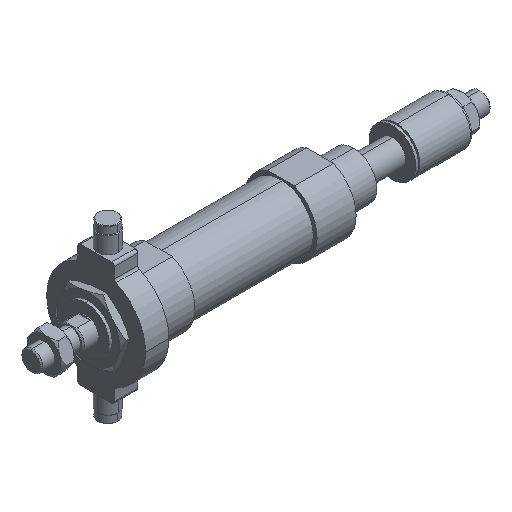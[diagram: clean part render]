
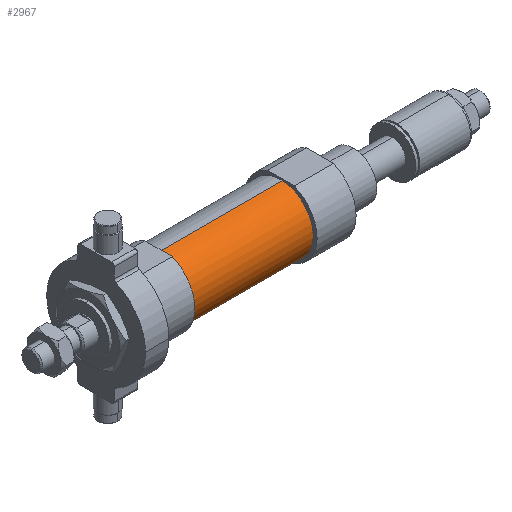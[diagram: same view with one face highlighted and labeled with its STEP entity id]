
A CAD part, isometric view. The second image highlights one B-rep face of the part: STEP entity #2967.
In plain terms, the highlighted cylindrical face has radius 12.5 mm (diameter 25 mm), a partial arc.
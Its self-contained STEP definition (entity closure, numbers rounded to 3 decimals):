
#94 = VECTOR ( 'NONE', #5000, 1000. ) ;
#173 = ORIENTED_EDGE ( 'NONE', *, *, #3686, .F. ) ;
#213 = DIRECTION ( 'NONE',  ( 1., 0., 0. ) ) ;
#394 = DIRECTION ( 'NONE',  ( -1., 0., 0. ) ) ;
#634 = VERTEX_POINT ( 'NONE', #3503 ) ;
#685 = CARTESIAN_POINT ( 'NONE',  ( 23.5, 0., 12.5 ) ) ;
#1111 = ORIENTED_EDGE ( 'NONE', *, *, #1762, .F. ) ;
#1118 = AXIS2_PLACEMENT_3D ( 'NONE', #4851, #1823, #5042 ) ;
#1382 = CARTESIAN_POINT ( 'NONE',  ( 23.5, 0., -12.5 ) ) ;
#1762 = EDGE_CURVE ( 'NONE', #634, #2771, #5639, .T. ) ;
#1823 = DIRECTION ( 'NONE',  ( -1., 0., 0. ) ) ;
#1858 = DIRECTION ( 'NONE',  ( 1., 0., 0. ) ) ;
#1876 = EDGE_LOOP ( 'NONE', ( #173, #1111, #3579, #1887 ) ) ;
#1884 = CARTESIAN_POINT ( 'NONE',  ( -23.5, 0., -12.5 ) ) ;
#1887 = ORIENTED_EDGE ( 'NONE', *, *, #2484, .T. ) ;
#2296 = EDGE_CURVE ( 'NONE', #634, #5242, #4376, .T. ) ;
#2297 = VERTEX_POINT ( 'NONE', #1884 ) ;
#2459 = VECTOR ( 'NONE', #394, 1000. ) ;
#2484 = EDGE_CURVE ( 'NONE', #5242, #2297, #2745, .T. ) ;
#2635 = AXIS2_PLACEMENT_3D ( 'NONE', #4305, #213, #3954 ) ;
#2745 = CIRCLE ( 'NONE', #2635, 12.5 ) ;
#2771 = VERTEX_POINT ( 'NONE', #1382 ) ;
#2793 = CARTESIAN_POINT ( 'NONE',  ( -23.5, 0., 12.5 ) ) ;
#2967 = ADVANCED_FACE ( 'NONE', ( #3229 ), #3337, .T. ) ;
#3229 = FACE_OUTER_BOUND ( 'NONE', #1876, .T. ) ;
#3337 = CYLINDRICAL_SURFACE ( 'NONE', #1118, 12.5 ) ;
#3503 = CARTESIAN_POINT ( 'NONE',  ( 23.5, 0., 12.5 ) ) ;
#3555 = CARTESIAN_POINT ( 'NONE',  ( 23.5, 0., 0. ) ) ;
#3579 = ORIENTED_EDGE ( 'NONE', *, *, #2296, .T. ) ;
#3686 = EDGE_CURVE ( 'NONE', #2771, #2297, #3915, .T. ) ;
#3822 = DIRECTION ( 'NONE',  ( 0., 0., -1. ) ) ;
#3836 = CARTESIAN_POINT ( 'NONE',  ( 23.5, 0., -12.5 ) ) ;
#3915 = LINE ( 'NONE', #3836, #94 ) ;
#3954 = DIRECTION ( 'NONE',  ( 0., 0., -1. ) ) ;
#4305 = CARTESIAN_POINT ( 'NONE',  ( -23.5, 0., 0. ) ) ;
#4376 = LINE ( 'NONE', #685, #2459 ) ;
#4851 = CARTESIAN_POINT ( 'NONE',  ( 23.5, 0., 0. ) ) ;
#5000 = DIRECTION ( 'NONE',  ( -1., 0., 0. ) ) ;
#5001 = AXIS2_PLACEMENT_3D ( 'NONE', #3555, #1858, #3822 ) ;
#5042 = DIRECTION ( 'NONE',  ( 0., 0., 1. ) ) ;
#5242 = VERTEX_POINT ( 'NONE', #2793 ) ;
#5639 = CIRCLE ( 'NONE', #5001, 12.5 ) ;
